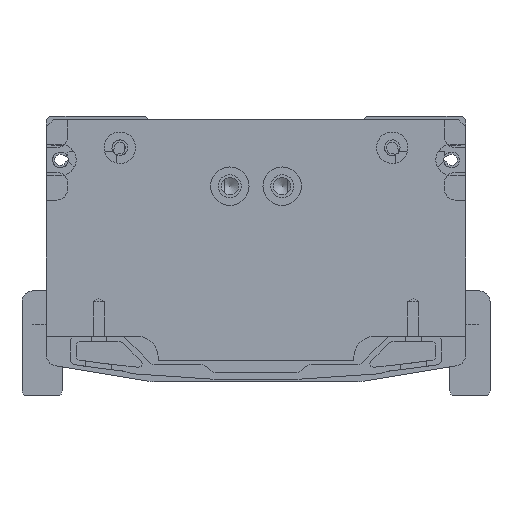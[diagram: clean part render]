
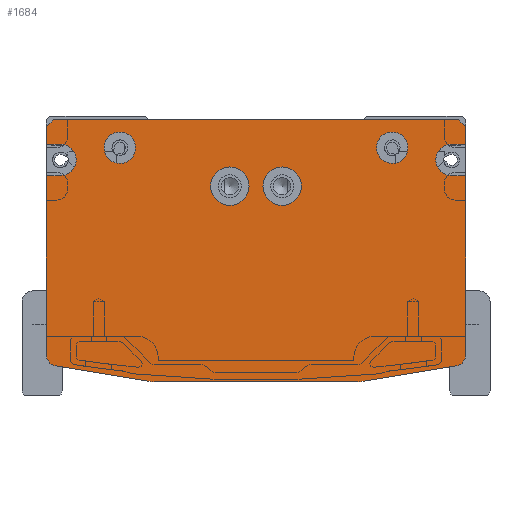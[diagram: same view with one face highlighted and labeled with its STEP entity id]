
A CAD part, front view. The second image highlights one B-rep face of the part: STEP entity #1684.
In plain terms, the highlighted planar face has unit normal (0, -1, 0).
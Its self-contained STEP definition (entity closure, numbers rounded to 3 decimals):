
#1684=ADVANCED_FACE('',(#5028,#5029,#5030,#5031,#5032),#2343,.F.);
#2343=PLANE('',#16739);
#2834=LINE('',#24164,#3928);
#2838=LINE('',#24172,#3932);
#2975=LINE('',#25038,#4069);
#3002=LINE('',#25092,#4096);
#3006=LINE('',#25100,#4100);
#3180=LINE('',#26287,#4274);
#3182=LINE('',#26290,#4276);
#3186=LINE('',#26297,#4280);
#3189=LINE('',#26306,#4283);
#3202=LINE('',#26341,#4296);
#3207=LINE('',#26355,#4301);
#3211=LINE('',#26367,#4305);
#3233=LINE('',#26429,#4327);
#3236=LINE('',#26438,#4330);
#3928=VECTOR('',#18642,1.);
#3932=VECTOR('',#18646,1.);
#4069=VECTOR('',#19113,1.);
#4096=VECTOR('',#19154,1.);
#4100=VECTOR('',#19158,1.);
#4274=VECTOR('',#19966,1.);
#4276=VECTOR('',#19970,1.);
#4280=VECTOR('',#19976,1.);
#4283=VECTOR('',#19987,1.);
#4296=VECTOR('',#20020,1.);
#4301=VECTOR('',#20033,1.);
#4305=VECTOR('',#20045,1.);
#4327=VECTOR('',#20121,1.);
#4330=VECTOR('',#20132,1.);
#5028=FACE_BOUND('',#6199,.T.);
#5029=FACE_BOUND('',#6200,.T.);
#5030=FACE_BOUND('',#6201,.T.);
#5031=FACE_BOUND('',#6202,.T.);
#5032=FACE_BOUND('',#6203,.T.);
#6199=EDGE_LOOP('',(#9153));
#6200=EDGE_LOOP('',(#9154));
#6201=EDGE_LOOP('',(#9155,#9156,#9157,#9158,#9159,#9160,#9161,#9162,#9163,
#9164,#9165,#9166,#9167,#9168,#9169,#9170,#9171,#9172,#9173,#9174));
#6202=EDGE_LOOP('',(#9175));
#6203=EDGE_LOOP('',(#9176));
#9153=ORIENTED_EDGE('',*,*,#14045,.T.);
#9154=ORIENTED_EDGE('',*,*,#14049,.T.);
#9155=ORIENTED_EDGE('',*,*,#14110,.T.);
#9156=ORIENTED_EDGE('',*,*,#14106,.F.);
#9157=ORIENTED_EDGE('',*,*,#14104,.F.);
#9158=ORIENTED_EDGE('',*,*,#14101,.F.);
#9159=ORIENTED_EDGE('',*,*,#14097,.T.);
#9160=ORIENTED_EDGE('',*,*,#14094,.T.);
#9161=ORIENTED_EDGE('',*,*,#13739,.F.);
#9162=ORIENTED_EDGE('',*,*,#14080,.T.);
#9163=ORIENTED_EDGE('',*,*,#14077,.T.);
#9164=ORIENTED_EDGE('',*,*,#14075,.F.);
#9165=ORIENTED_EDGE('',*,*,#13735,.F.);
#9166=ORIENTED_EDGE('',*,*,#14071,.T.);
#9167=ORIENTED_EDGE('',*,*,#13708,.F.);
#9168=ORIENTED_EDGE('',*,*,#14069,.T.);
#9169=ORIENTED_EDGE('',*,*,#13444,.F.);
#9170=ORIENTED_EDGE('',*,*,#14145,.T.);
#9171=ORIENTED_EDGE('',*,*,#14142,.T.);
#9172=ORIENTED_EDGE('',*,*,#14140,.F.);
#9173=ORIENTED_EDGE('',*,*,#13440,.F.);
#9174=ORIENTED_EDGE('',*,*,#14113,.T.);
#9175=ORIENTED_EDGE('',*,*,#14056,.F.);
#9176=ORIENTED_EDGE('',*,*,#14052,.F.);
#11763=VERTEX_POINT('',#24163);
#11764=VERTEX_POINT('',#24165);
#11767=VERTEX_POINT('',#24171);
#11768=VERTEX_POINT('',#24173);
#11901=VERTEX_POINT('',#25037);
#11902=VERTEX_POINT('',#25039);
#11921=VERTEX_POINT('',#25091);
#11922=VERTEX_POINT('',#25093);
#11925=VERTEX_POINT('',#25099);
#11926=VERTEX_POINT('',#25101);
#12141=VERTEX_POINT('',#26230);
#12145=VERTEX_POINT('',#26241);
#12148=VERTEX_POINT('',#26250);
#12151=VERTEX_POINT('',#26260);
#12159=VERTEX_POINT('',#26295);
#12161=VERTEX_POINT('',#26302);
#12172=VERTEX_POINT('',#26336);
#12174=VERTEX_POINT('',#26342);
#12177=VERTEX_POINT('',#26350);
#12179=VERTEX_POINT('',#26356);
#12180=VERTEX_POINT('',#26360);
#12183=VERTEX_POINT('',#26368);
#12195=VERTEX_POINT('',#26427);
#12197=VERTEX_POINT('',#26434);
#13440=EDGE_CURVE('',#11763,#11764,#2834,.T.);
#13444=EDGE_CURVE('',#11767,#11768,#2838,.T.);
#13708=EDGE_CURVE('',#11901,#11902,#2975,.T.);
#13735=EDGE_CURVE('',#11921,#11922,#3002,.T.);
#13739=EDGE_CURVE('',#11925,#11926,#3006,.T.);
#14045=EDGE_CURVE('',#12141,#12141,#15380,.T.);
#14049=EDGE_CURVE('',#12145,#12145,#15384,.T.);
#14052=EDGE_CURVE('',#12148,#12148,#15387,.T.);
#14056=EDGE_CURVE('',#12151,#12151,#15391,.T.);
#14069=EDGE_CURVE('',#11901,#11768,#3180,.T.);
#14071=EDGE_CURVE('',#11921,#11902,#3182,.T.);
#14075=EDGE_CURVE('',#11922,#12159,#3186,.T.);
#14077=EDGE_CURVE('',#12161,#12159,#15398,.T.);
#14080=EDGE_CURVE('',#11925,#12161,#3189,.T.);
#14094=EDGE_CURVE('',#12172,#11926,#15401,.T.);
#14097=EDGE_CURVE('',#12174,#12172,#3202,.T.);
#14101=EDGE_CURVE('',#12174,#12177,#15404,.T.);
#14104=EDGE_CURVE('',#12177,#12179,#3207,.T.);
#14106=EDGE_CURVE('',#12179,#12180,#15405,.T.);
#14110=EDGE_CURVE('',#12183,#12180,#3211,.T.);
#14113=EDGE_CURVE('',#11763,#12183,#15408,.T.);
#14140=EDGE_CURVE('',#11764,#12195,#3233,.T.);
#14142=EDGE_CURVE('',#12197,#12195,#15416,.T.);
#14145=EDGE_CURVE('',#11767,#12197,#3236,.T.);
#15380=CIRCLE('',#16640,5.5);
#15384=CIRCLE('',#16647,5.5);
#15387=CIRCLE('',#16653,4.5);
#15391=CIRCLE('',#16660,4.5);
#15398=CIRCLE('',#16678,4.5);
#15401=CIRCLE('',#16687,3.);
#15404=CIRCLE('',#16692,10.);
#15405=CIRCLE('',#16695,10.);
#15408=CIRCLE('',#16700,3.);
#15416=CIRCLE('',#16727,4.5);
#16640=AXIS2_PLACEMENT_3D('',#26229,#19891,#19892);
#16647=AXIS2_PLACEMENT_3D('',#26240,#19905,#19906);
#16653=AXIS2_PLACEMENT_3D('',#26249,#19917,#19918);
#16660=AXIS2_PLACEMENT_3D('',#26259,#19931,#19932);
#16678=AXIS2_PLACEMENT_3D('',#26301,#19981,#19982);
#16687=AXIS2_PLACEMENT_3D('',#26335,#20013,#20014);
#16692=AXIS2_PLACEMENT_3D('',#26349,#20027,#20028);
#16695=AXIS2_PLACEMENT_3D('',#26359,#20037,#20038);
#16700=AXIS2_PLACEMENT_3D('',#26372,#20051,#20052);
#16727=AXIS2_PLACEMENT_3D('',#26433,#20126,#20127);
#16739=AXIS2_PLACEMENT_3D('',#26455,#20157,#20158);
#18642=DIRECTION('',(0.,0.,1.));
#18646=DIRECTION('',(0.,0.,1.));
#19113=DIRECTION('',(1.,0.,0.));
#19154=DIRECTION('',(0.,0.,-1.));
#19158=DIRECTION('',(0.,0.,-1.));
#19891=DIRECTION('',(0.,1.,0.));
#19892=DIRECTION('',(1.,0.,0.));
#19905=DIRECTION('',(0.,1.,0.));
#19906=DIRECTION('',(1.,0.,0.));
#19917=DIRECTION('',(0.,-1.,0.));
#19918=DIRECTION('',(1.,0.,0.));
#19931=DIRECTION('',(0.,-1.,0.));
#19932=DIRECTION('',(1.,0.,0.));
#19966=DIRECTION('',(-0.707,0.,-0.707));
#19970=DIRECTION('',(-0.707,0.,0.707));
#19976=DIRECTION('',(-1.,0.,0.));
#19981=DIRECTION('',(0.,1.,0.));
#19982=DIRECTION('',(0.,0.,-1.));
#19987=DIRECTION('',(-1.,0.,0.));
#20013=DIRECTION('',(0.,-1.,0.));
#20014=DIRECTION('',(0.164,0.,-0.986));
#20020=DIRECTION('',(0.986,0.,0.164));
#20027=DIRECTION('',(0.,1.,0.));
#20028=DIRECTION('',(0.164,0.,-0.986));
#20033=DIRECTION('',(-1.,0.,0.));
#20037=DIRECTION('',(0.,1.,0.));
#20038=DIRECTION('',(0.,0.,-1.));
#20045=DIRECTION('',(0.986,0.,-0.164));
#20051=DIRECTION('',(0.,-1.,0.));
#20052=DIRECTION('',(-1.,0.,0.));
#20121=DIRECTION('',(1.,0.,0.));
#20126=DIRECTION('',(0.,1.,0.));
#20127=DIRECTION('',(0.,0.,1.));
#20132=DIRECTION('',(1.,0.,0.));
#20157=DIRECTION('',(0.,1.,0.));
#20158=DIRECTION('',(1.,0.,0.));
#24163=CARTESIAN_POINT('',(-60.,-1612.,-69.459));
#24164=CARTESIAN_POINT('',(-60.,-1612.,-69.459));
#24165=CARTESIAN_POINT('',(-60.,-1612.,-18.));
#24171=CARTESIAN_POINT('',(-60.,-1612.,-9.));
#24172=CARTESIAN_POINT('',(-60.,-1612.,-9.));
#24173=CARTESIAN_POINT('',(-60.,-1612.,-4.));
#25037=CARTESIAN_POINT('',(-58.,-1612.,-2.));
#25038=CARTESIAN_POINT('',(-58.,-1612.,-2.));
#25039=CARTESIAN_POINT('',(58.,-1612.,-2.));
#25091=CARTESIAN_POINT('',(60.,-1612.,-4.));
#25092=CARTESIAN_POINT('',(60.,-1612.,-4.));
#25093=CARTESIAN_POINT('',(60.,-1612.,-9.));
#25099=CARTESIAN_POINT('',(60.,-1612.,-18.));
#25100=CARTESIAN_POINT('',(60.,-1612.,-18.));
#25101=CARTESIAN_POINT('',(60.,-1612.,-69.459));
#26229=CARTESIAN_POINT('',(7.5,-1612.,-21.));
#26230=CARTESIAN_POINT('',(13.,-1612.,-21.));
#26240=CARTESIAN_POINT('',(-7.5,-1612.,-21.));
#26241=CARTESIAN_POINT('',(-2.,-1612.,-21.));
#26249=CARTESIAN_POINT('',(-39.,-1612.,-10.));
#26250=CARTESIAN_POINT('',(-34.5,-1612.,-10.));
#26259=CARTESIAN_POINT('',(39.,-1612.,-10.));
#26260=CARTESIAN_POINT('',(43.5,-1612.,-10.));
#26287=CARTESIAN_POINT('',(-58.,-1612.,-2.));
#26290=CARTESIAN_POINT('',(60.,-1612.,-4.));
#26295=CARTESIAN_POINT('',(56.,-1612.,-9.));
#26297=CARTESIAN_POINT('',(60.,-1612.,-9.));
#26301=CARTESIAN_POINT('',(56.,-1612.,-13.5));
#26302=CARTESIAN_POINT('',(56.,-1612.,-18.));
#26306=CARTESIAN_POINT('',(60.,-1612.,-18.));
#26335=CARTESIAN_POINT('',(57.,-1612.,-69.459));
#26336=CARTESIAN_POINT('',(57.493,-1612.,-72.418));
#26341=CARTESIAN_POINT('',(30.816,-1612.,-76.864));
#26342=CARTESIAN_POINT('',(30.816,-1612.,-76.864));
#26349=CARTESIAN_POINT('',(29.172,-1612.,-67.));
#26350=CARTESIAN_POINT('',(29.172,-1612.,-77.));
#26355=CARTESIAN_POINT('',(29.172,-1612.,-77.));
#26356=CARTESIAN_POINT('',(-29.172,-1612.,-77.));
#26359=CARTESIAN_POINT('',(-29.172,-1612.,-67.));
#26360=CARTESIAN_POINT('',(-30.816,-1612.,-76.864));
#26367=CARTESIAN_POINT('',(-57.493,-1612.,-72.418));
#26368=CARTESIAN_POINT('',(-57.493,-1612.,-72.418));
#26372=CARTESIAN_POINT('',(-57.,-1612.,-69.459));
#26427=CARTESIAN_POINT('',(-56.,-1612.,-18.));
#26429=CARTESIAN_POINT('',(-60.,-1612.,-18.));
#26433=CARTESIAN_POINT('',(-56.,-1612.,-13.5));
#26434=CARTESIAN_POINT('',(-56.,-1612.,-9.));
#26438=CARTESIAN_POINT('',(-60.,-1612.,-9.));
#26455=CARTESIAN_POINT('',(0.,-1612.,-2.));
